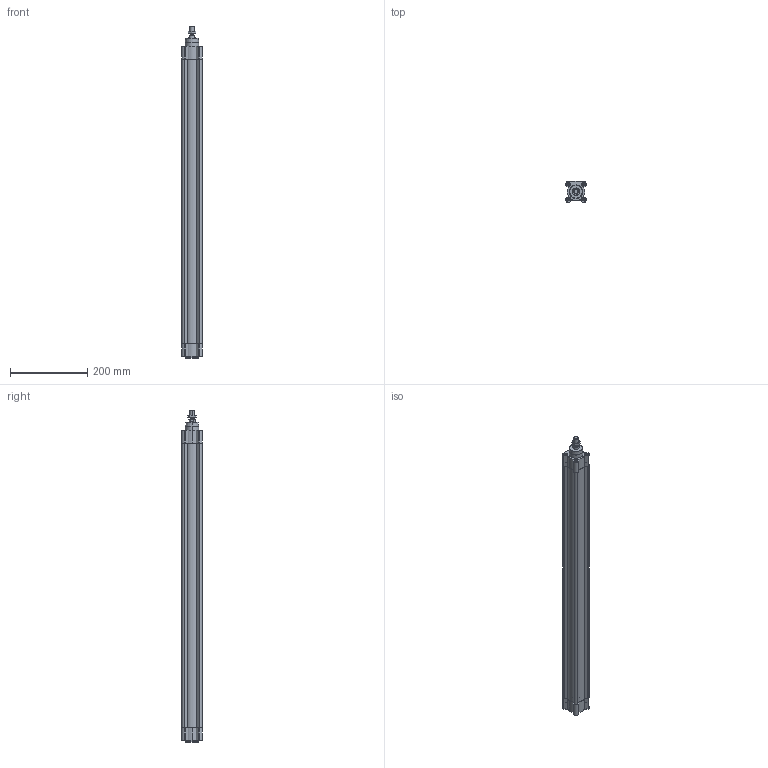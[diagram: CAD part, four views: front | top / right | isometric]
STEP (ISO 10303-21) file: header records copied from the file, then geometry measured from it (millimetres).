
FILE_DESCRIPTION (( 'STEP AP214' ), '1' );
FILE_NAME ('CPME40-700.STEP', '2025-05-27T19:04:44', ( '' ), ( '' ), 'SwSTEP 2.0', 'SolidWorks 2019', '' );
FILE_SCHEMA (( 'AUTOMOTIVE_DESIGN' ));
Length unit declared in the file: millimetre
Products named in the file (1): CPME40-700
Bounding box: 54 x 54 x 861.9 mm (x, y, z)
Volume: 995099.3 mm3; surface area: 364227.9 mm2
Topology: 3 solids, 3 shells, 629 faces, 1625 edges, 1030 vertices
Faces by surface type: plane 319, cylinder 196, cone 106, torus 8
Entity records: 26571 total; most frequent: CARTESIAN_POINT 4365, ORIENTED_EDGE 3218, DIRECTION 3129, EDGE_CURVE 1609, AXIS2_PLACEMENT_3D 1113, VERTEX_POINT 1030, LINE 903, VECTOR 903
